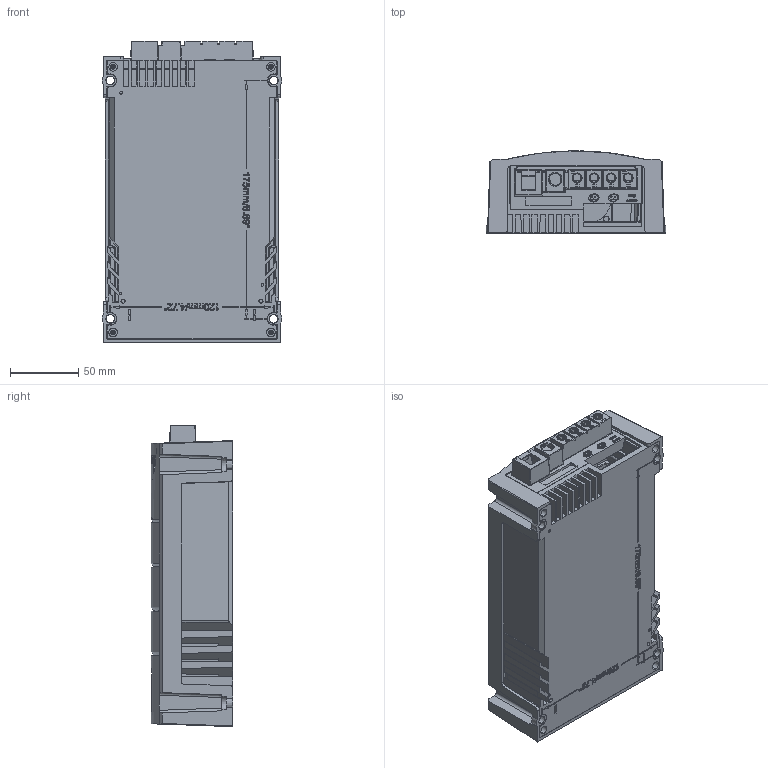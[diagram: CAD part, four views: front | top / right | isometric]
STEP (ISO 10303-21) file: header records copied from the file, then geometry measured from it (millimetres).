
FILE_DESCRIPTION (( 'STEP AP214' ), '1' );
FILE_NAME ('44010250 - ChargeMaster 12-25-3.STEP', '2014-03-06T13:32:39', ( 'Actuant' ), ( 'Actuant' ), 'SwSTEP 2.0', 'SolidWorks 2011', '' );
FILE_SCHEMA (( 'AUTOMOTIVE_DESIGN' ));
Length unit declared in the file: millimetre
Products named in the file (1): 44010250 - ChargeMaster 12-25-3
Bounding box: 131.98 x 60 x 221.2 mm (x, y, z)
Volume: 269481.4 mm3; surface area: 271439.7 mm2
Topology: 11 solids, 12 shells, 5193 faces, 13962 edges, 8981 vertices
Faces by surface type: plane 2758, cylinder 1071, bspline 1012, cone 284, torus 58, sphere 10
Entity records: 256860 total; most frequent: CARTESIAN_POINT 80464, ORIENTED_EDGE 27890, DIRECTION 19631, EDGE_CURVE 13945, VERTEX_POINT 8981, VECTOR 8623, LINE 8623, EDGE_LOOP 5534
